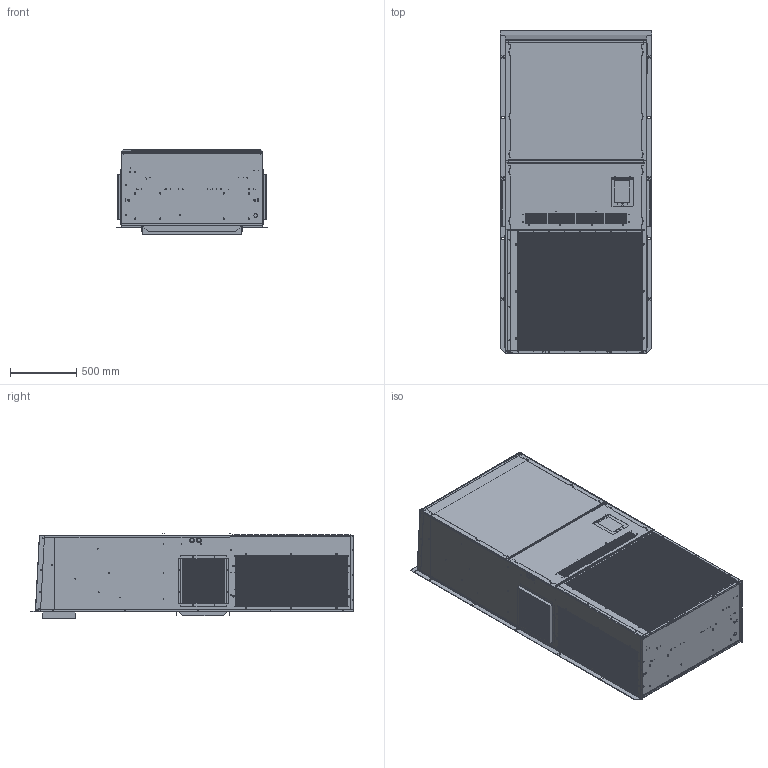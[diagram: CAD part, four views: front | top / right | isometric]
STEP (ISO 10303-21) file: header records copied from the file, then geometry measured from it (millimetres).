
FILE_DESCRIPTION (( 'STEP AP214' ), '1' );
FILE_NAME ('MAA1060+C+1+D3.STEP', '2024-04-17T18:05:28', ( '' ), ( '' ), 'SwSTEP 2.0', 'SolidWorks 2022', '' );
FILE_SCHEMA (( 'AUTOMOTIVE_DESIGN' ));
Length unit declared in the file: inch
Products named in the file (30): 93251_01^93607; SNM13149A; 93607; SMM13149X; SMM13129X; 93251_03^93607; 93251_03^81799; SMM20057X; SMM23087X_SMM23087X-IN; SMM12037X_SMM12037X-IN; SMM22000X; SMM12038X; BLOCK OFF - MAA1060A++++N++++1+++C2^MAA1060H-D3; 93251_02^81799; SMM13129X_SMM13129X-IN; SMM13130X; SMM13130X_SMM13130X-IN; SMM23089X; SMM23087X; SMM16066X; 93251_01^81799; SMM13134X; SMM14087X; SMM10000X; SMM13149X_SMM13149X-IN; MAA1060+C+1+D3; 93251_02^93607; 81799; SMM23089X_SMM23089X-IN; SMM12037X
Assembly tree (48 placements, depth 3):
  MAA1060+C+1+D3
    SMM10000X
    SMM12037X_SMM12037X-IN
      SMM12037X
    SMM12038X  x2
    SMM13129X_SMM13129X-IN
      SMM13129X
    SMM13130X_SMM13130X-IN
      SMM13130X
    SMM13134X  x2
    SMM13149X_SMM13149X-IN
      SMM13149X
      SNM13149A
    SMM14087X
    SMM16066X
    SMM20057X
    SMM22000X
    SMM23087X_SMM23087X-IN
      SMM23087X
    SMM23089X_SMM23089X-IN
      SMM23089X
    81799  x2
      93251_01^81799
      93251_02^81799
      93251_03^81799
    93607
      93251_01^93607
      93251_02^93607  x4
      93251_03^93607  x6
    BLOCK OFF - MAA1060A++++N++++1+++C2^MAA1060H-D3
Bounding box: 1146.61 x 2446.55 x 638.89 mm (x, y, z)
Volume: 1324574934.4 mm3; surface area: 26944093 mm2
Topology: 364 solids, 364 shells, 5345 faces, 12943 edges, 8282 vertices
Faces by surface type: plane 2710, cylinder 2223, torus 244, bspline 160, cone 8
Entity records: 134942 total; most frequent: CARTESIAN_POINT 27075, DIRECTION 22025, ORIENTED_EDGE 20790, EDGE_CURVE 10395, AXIS2_PLACEMENT_3D 8164, VERTEX_POINT 6630, VECTOR 5697, LINE 5697
